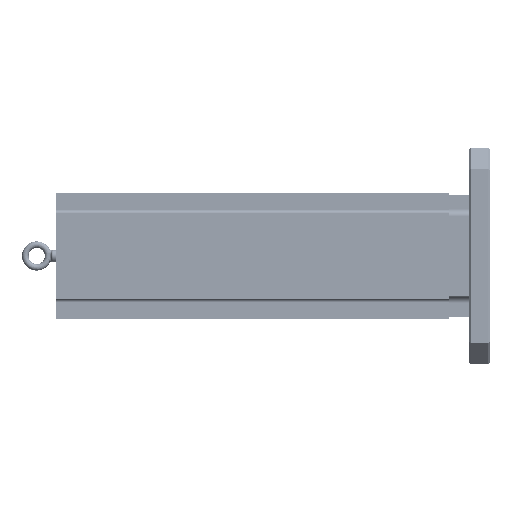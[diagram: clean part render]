
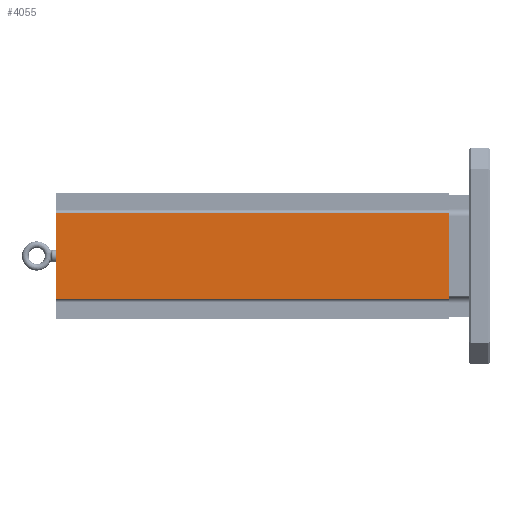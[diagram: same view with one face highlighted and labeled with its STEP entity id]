
A CAD part, left-side view. The second image highlights one B-rep face of the part: STEP entity #4055.
In plain terms, the highlighted planar face has unit normal (-1, 0, 0).
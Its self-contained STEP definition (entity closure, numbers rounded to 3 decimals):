
#838 = EDGE_LOOP ( 'NONE', ( #24363, #20974, #11218, #18115 ) ) ;
#1870 = LINE ( 'NONE', #6678, #7920 ) ;
#4055 = ADVANCED_FACE ( 'NONE', ( #19906 ), #12542, .F. ) ;
#5524 = EDGE_CURVE ( 'NONE', #14851, #24940, #21599, .T. ) ;
#6678 = CARTESIAN_POINT ( 'NONE',  ( -116.992, 762., -79.273 ) ) ;
#6813 = LINE ( 'NONE', #17206, #32887 ) ;
#7642 = DIRECTION ( 'NONE',  ( 0., 0., -1. ) ) ;
#7920 = VECTOR ( 'NONE', #11948, 1000. ) ;
#9056 = CARTESIAN_POINT ( 'NONE',  ( -116.992, 38.1, 78.511 ) ) ;
#11218 = ORIENTED_EDGE ( 'NONE', *, *, #24375, .F. ) ;
#11948 = DIRECTION ( 'NONE',  ( 0., 0., 1. ) ) ;
#12542 = PLANE ( 'NONE',  #28573 ) ;
#13206 = CARTESIAN_POINT ( 'NONE',  ( -116.992, 762., -79.273 ) ) ;
#13225 = VERTEX_POINT ( 'NONE', #9056 ) ;
#14851 = VERTEX_POINT ( 'NONE', #31414 ) ;
#15594 = DIRECTION ( 'NONE',  ( 0., 0., -1. ) ) ;
#16625 = DIRECTION ( 'NONE',  ( 0., -1., 0. ) ) ;
#16999 = EDGE_CURVE ( 'NONE', #13225, #25528, #32661, .T. ) ;
#17206 = CARTESIAN_POINT ( 'NONE',  ( -116.992, 38.1, -79.273 ) ) ;
#18115 = ORIENTED_EDGE ( 'NONE', *, *, #5524, .T. ) ;
#18457 = VECTOR ( 'NONE', #22221, 1000. ) ;
#19086 = VECTOR ( 'NONE', #16625, 1000. ) ;
#19906 = FACE_OUTER_BOUND ( 'NONE', #838, .T. ) ;
#20974 = ORIENTED_EDGE ( 'NONE', *, *, #16999, .T. ) ;
#21599 = LINE ( 'NONE', #27233, #19086 ) ;
#22221 = DIRECTION ( 'NONE',  ( 0., 1., 0. ) ) ;
#23303 = DIRECTION ( 'NONE',  ( 1., 0., 0. ) ) ;
#24363 = ORIENTED_EDGE ( 'NONE', *, *, #32628, .F. ) ;
#24375 = EDGE_CURVE ( 'NONE', #14851, #25528, #1870, .T. ) ;
#24940 = VERTEX_POINT ( 'NONE', #29446 ) ;
#25528 = VERTEX_POINT ( 'NONE', #28017 ) ;
#27180 = CARTESIAN_POINT ( 'NONE',  ( -116.992, 762., 78.511 ) ) ;
#27233 = CARTESIAN_POINT ( 'NONE',  ( -116.992, 762., -78.511 ) ) ;
#28017 = CARTESIAN_POINT ( 'NONE',  ( -116.992, 762., 78.511 ) ) ;
#28573 = AXIS2_PLACEMENT_3D ( 'NONE', #13206, #23303, #15594 ) ;
#29446 = CARTESIAN_POINT ( 'NONE',  ( -116.992, 38.1, -78.511 ) ) ;
#31414 = CARTESIAN_POINT ( 'NONE',  ( -116.992, 762., -78.511 ) ) ;
#32628 = EDGE_CURVE ( 'NONE', #13225, #24940, #6813, .T. ) ;
#32661 = LINE ( 'NONE', #27180, #18457 ) ;
#32887 = VECTOR ( 'NONE', #7642, 1000. ) ;
